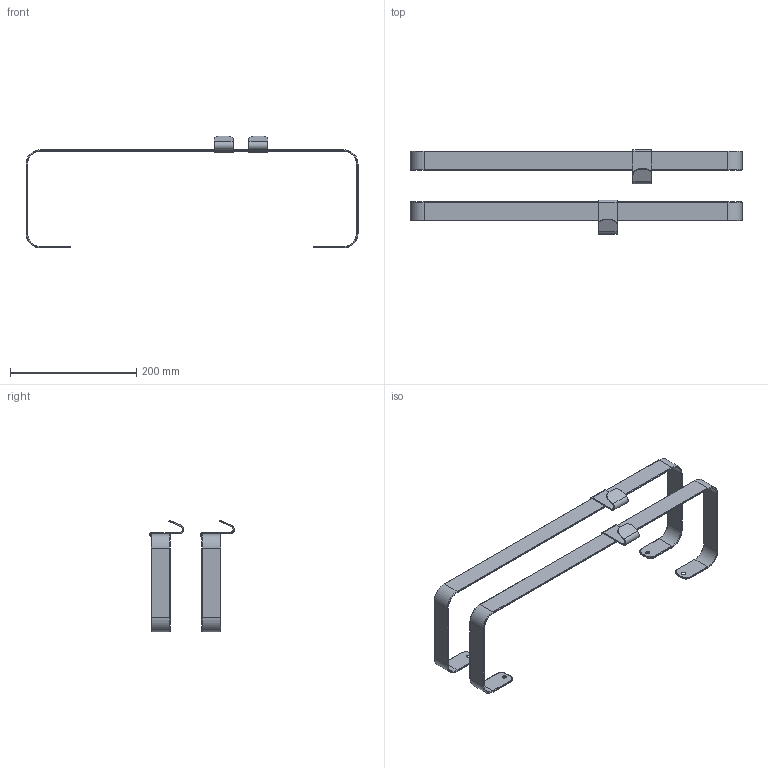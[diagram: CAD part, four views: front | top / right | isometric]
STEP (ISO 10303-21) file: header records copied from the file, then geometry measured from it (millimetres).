
FILE_DESCRIPTION(('FreeCAD Model'),'2;1');
FILE_NAME('Open CASCADE Shape Model','2026-06-08T14:34:56',(''),(''), 'Open CASCADE STEP processor 7.8','FreeCAD','Unknown');
FILE_SCHEMA(('AUTOMOTIVE_DESIGN { 1 0 10303 214 1 1 1 1 }'));
Length unit declared in the file: millimetre
Products named in the file (3): Unnamed; ICO_GANCIO-ACCAPPATOIO001; ICO_PORTASALVIETTE
Assembly tree (4 placements, depth 2):
  Unnamed
    ICO_GANCIO-ACCAPPATOIO001  x2
    ICO_PORTASALVIETTE  x2
Bounding box: 525 x 133.99 x 176.75 mm (x, y, z)
Volume: 150956.5 mm3; surface area: 132601.1 mm2
Topology: 4 solids, 4 shells, 248 faces, 520 edges, 280 vertices
Faces by surface type: plane 96, cylinder 96, torus 48, cone 8
Entity records: 3364 total; most frequent: DIRECTION 642, CARTESIAN_POINT 529, ORIENTED_EDGE 520, EDGE_CURVE 260, AXIS2_PLACEMENT_3D 253, VERTEX_POINT 140, LINE 136, VECTOR 136
